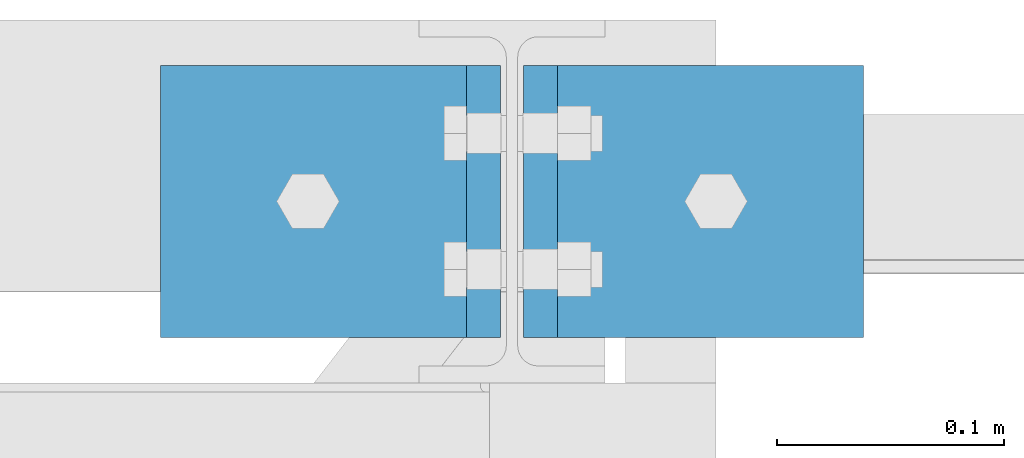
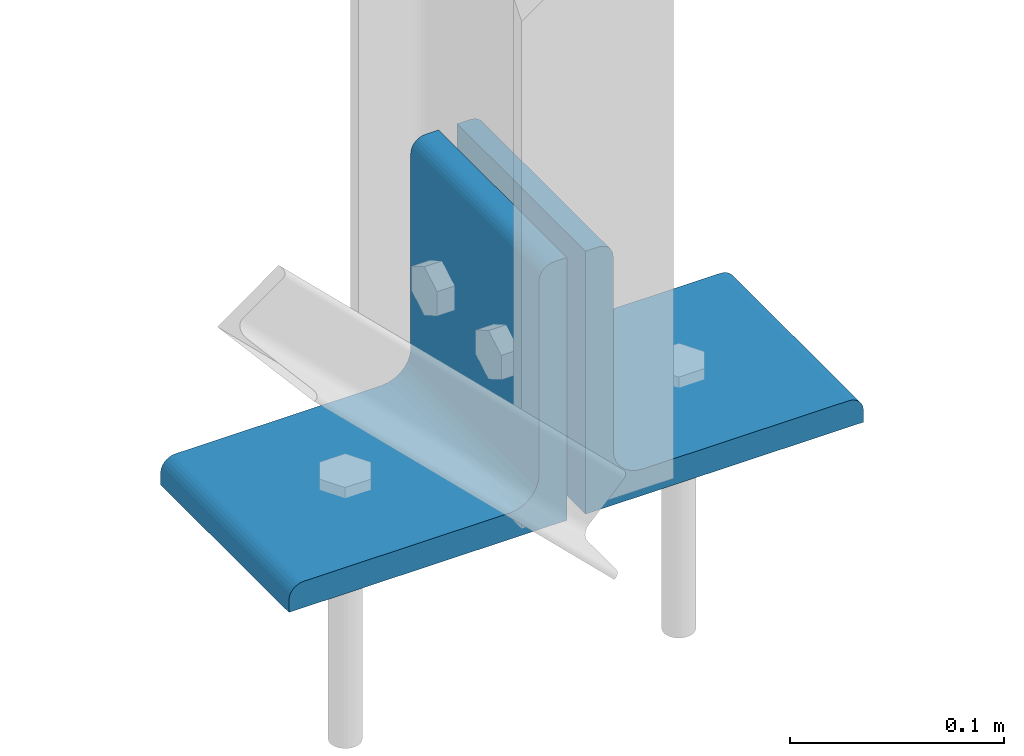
# One storey, part 49 of 123: 2 beams, 2 elements without a shape of their own.
"""IFC2X3 building model written with IfcOpenShell, lengths in millimetres."""

from ifc_helpers import new_model, si_unit, frame, origin_with_axes, origin_2d_with_axis, place, context, subcontext, project, spatial, l_section, extrude, material, type_object, element, aggregate, save


model = new_model("IFC2X3")

# Units and contexts
model_context = context("Model", 3, precision=1e-05, world=origin_with_axes())
body_context = subcontext(model_context, "Body", "Model", "MODEL_VIEW")
ifc_project = project(units=[si_unit("LENGTHUNIT", "METRE", prefix="MILLI"), si_unit("AREAUNIT", "SQUARE_METRE"), si_unit("VOLUMEUNIT", "CUBIC_METRE"), si_unit("MASSUNIT", "GRAM", prefix="KILO"), si_unit("TIMEUNIT", "SECOND"), si_unit("PLANEANGLEUNIT", "RADIAN"), si_unit("SOLIDANGLEUNIT", "STERADIAN"), si_unit("THERMODYNAMICTEMPERATUREUNIT", "DEGREE_CELSIUS"), si_unit("LUMINOUSINTENSITYUNIT", "LUMEN")], contexts=[model_context])

# Site, building, storey
site_placement = place(None, origin_with_axes())
site = spatial("IfcSite", under=ifc_project, at=site_placement, Name="Undefined", CompositionType="ELEMENT")
building_placement = place(site_placement, origin_with_axes())
building = spatial("IfcBuilding", under=site, at=building_placement, Name="Undefined", CompositionType="ELEMENT")
storey_placement = place(building_placement, origin_with_axes())
storey = spatial("IfcBuildingStorey", under=building, at=storey_placement, Name="Undefined", CompositionType="ELEMENT", Elevation=0.0)

# Assembly, beam
assembly_1_placement = place(storey_placement, origin_with_axes())
assembly_1 = element("IfcElementAssembly", 1, at=assembly_1_placement, inside=storey, Name="Steel Assembly", AssemblyPlace="NOTDEFINED", PredefinedType="RIGID_FRAME")
ifc_material = material(Name="STEEL/S235-E24")
beam_type = type_object("IfcBeamType", Name="L150*15", PredefinedType="NOTDEFINED")
beam_1_placement = place(assembly_1_placement, frame((31950.0000297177, 29299.9999987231, -175.0), z_axis=(0.0, 0.0, 1.0), x_axis=(0.0, -1.0, 0.0)))
beam_1 = element("IfcBeam", 2, at=beam_1_placement, type_object=beam_type, material=ifc_material, Name="ATTACHE", ObjectType="L150*15", context=body_context, shape_type="SweptSolid", body=[
    extrude(l_section(Depth=150.0, Width=150.0, Thickness=15.0, FilletRadius=16.0, EdgeRadius=8.0, at=origin_2d_with_axis()), frame((120.0, 0.0, 0.0), z_axis=(-1.0, 0.0, 0.0), x_axis=(0.0, -1.0, 0.0)), (0.0, 0.0, 1.0), 120.0),
])
aggregate(assembly_1, [beam_1])

assembly_2_placement = place(storey_placement, origin_with_axes())
assembly_2 = element("IfcElementAssembly", 3, at=assembly_2_placement, inside=storey, Name="Steel Assembly", AssemblyPlace="NOTDEFINED", PredefinedType="RIGID_FRAME")
beam_2_placement = place(assembly_2_placement, frame((32109.999970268, 29179.9999987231, -175.0), z_axis=(0.0, 0.0, 1.0), x_axis=(0.0, 1.0, 0.0)))
beam_2 = element("IfcBeam", 4, at=beam_2_placement, type_object=beam_type, material=ifc_material, Name="ATTACHE", ObjectType="L150*15", context=body_context, shape_type="SweptSolid", body=[
    extrude(l_section(Depth=150.0, Width=150.0, Thickness=15.0, FilletRadius=16.0, EdgeRadius=8.0, at=origin_2d_with_axis()), frame((120.0, 0.0, 0.0), z_axis=(-1.0, 0.0, 0.0), x_axis=(0.0, -1.0, 0.0)), (0.0, 0.0, 1.0), 120.0),
])
aggregate(assembly_2, [beam_2])

save(model, "model.ifc")
